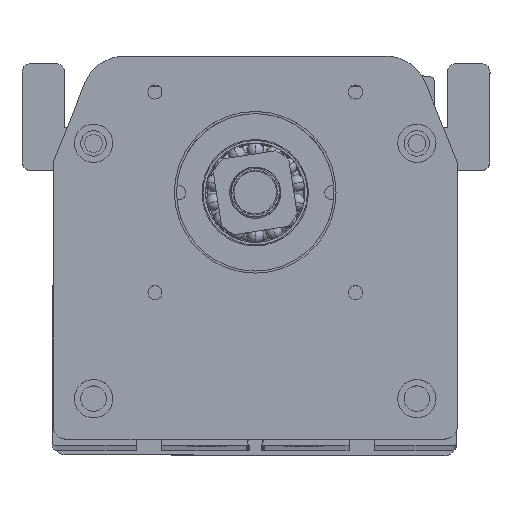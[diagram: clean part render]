
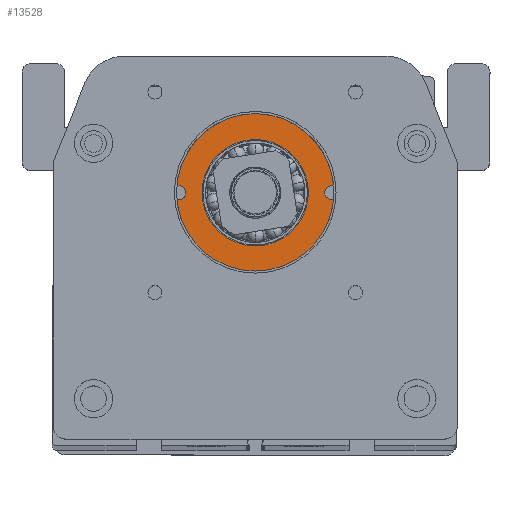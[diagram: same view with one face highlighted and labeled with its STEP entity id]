
A CAD part, top view. The second image highlights one B-rep face of the part: STEP entity #13528.
In plain terms, the highlighted planar face has unit normal (0, 0, 1) as drawn and (0, 0, -1) by its records, which use the part's own axes.
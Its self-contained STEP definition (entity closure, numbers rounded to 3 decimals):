
#430 = CARTESIAN_POINT ( 'NONE',  ( 38.737, 121.669, 51. ) ) ;
#1065 = CARTESIAN_POINT ( 'NONE',  ( 26.737, 172.669, 51. ) ) ;
#1285 = DIRECTION ( 'NONE',  ( 0., 0., -1. ) ) ;
#2113 = AXIS2_PLACEMENT_3D ( 'NONE', #19260, #1285, #22250 ) ;
#2329 = CARTESIAN_POINT ( 'NONE',  ( 50.737, 148.669, 51. ) ) ;
#2625 = CARTESIAN_POINT ( 'NONE',  ( 20.306, 120.076, 51. ) ) ;
#3227 = ORIENTED_EDGE ( 'NONE', *, *, #37201, .F. ) ;
#3273 = CARTESIAN_POINT ( 'NONE',  ( 38.737, 121.669, 51. ) ) ;
#3364 = VERTEX_POINT ( 'NONE', #33620 ) ;
#3462 = DIRECTION ( 'NONE',  ( -1., 0., 0. ) ) ;
#3576 = DIRECTION ( 'NONE',  ( 0., 0., -1. ) ) ;
#3955 = DIRECTION ( 'NONE',  ( 1., 0., 0. ) ) ;
#4070 = CARTESIAN_POINT ( 'NONE',  ( 38.737, 121.669, 51. ) ) ;
#4357 = VECTOR ( 'NONE', #27923, 1000. ) ;
#4880 = CARTESIAN_POINT ( 'NONE',  ( 57.169, 123.262, 51. ) ) ;
#4901 = EDGE_CURVE ( 'NONE', #14583, #21971, #31210, .T. ) ;
#5091 = CARTESIAN_POINT ( 'NONE',  ( 38.737, 121.669, 51. ) ) ;
#5652 = CARTESIAN_POINT ( 'NONE',  ( 51.237, 121.669, 51. ) ) ;
#5853 = FACE_BOUND ( 'NONE', #10268, .T. ) ;
#6068 = ORIENTED_EDGE ( 'NONE', *, *, #32820, .F. ) ;
#6120 = AXIS2_PLACEMENT_3D ( 'NONE', #430, #21393, #3462 ) ;
#6161 = EDGE_CURVE ( 'NONE', #3364, #35077, #23143, .T. ) ;
#6279 = DIRECTION ( 'NONE',  ( -1., 0., 0. ) ) ;
#6342 = AXIS2_PLACEMENT_3D ( 'NONE', #30327, #12358, #33352 ) ;
#7043 = ORIENTED_EDGE ( 'NONE', *, *, #13415, .T. ) ;
#7094 = DIRECTION ( 'NONE',  ( -1., 0., 0. ) ) ;
#7140 = AXIS2_PLACEMENT_3D ( 'NONE', #5091, #26067, #8143 ) ;
#7923 = AXIS2_PLACEMENT_3D ( 'NONE', #1065, #13151, #34109 ) ;
#8143 = DIRECTION ( 'NONE',  ( -1., 0., 0. ) ) ;
#8193 = VERTEX_POINT ( 'NONE', #2625 ) ;
#9117 = VERTEX_POINT ( 'NONE', #13615 ) ;
#9718 = CIRCLE ( 'NONE', #26172, 1.65 ) ;
#10132 = PLANE ( 'NONE',  #7923 ) ;
#10268 = EDGE_LOOP ( 'NONE', ( #31346, #3227 ) ) ;
#10511 = CARTESIAN_POINT ( 'NONE',  ( 55.087, 121.669, 51. ) ) ;
#10777 = AXIS2_PLACEMENT_3D ( 'NONE', #31444, #13493, #34445 ) ;
#11172 = CIRCLE ( 'NONE', #7140, 12.5 ) ;
#11416 = DIRECTION ( 'NONE',  ( 0., 0., -1. ) ) ;
#11635 = CARTESIAN_POINT ( 'NONE',  ( 20.306, 123.262, 51. ) ) ;
#11688 = VERTEX_POINT ( 'NONE', #21262 ) ;
#11712 = EDGE_CURVE ( 'NONE', #20968, #11688, #12989, .T. ) ;
#12086 = VERTEX_POINT ( 'NONE', #4880 ) ;
#12333 = LINE ( 'NONE', #24902, #4357 ) ;
#12358 = DIRECTION ( 'NONE',  ( 0., 0., -1. ) ) ;
#12989 = CIRCLE ( 'NONE', #6342, 1.65 ) ;
#13151 = DIRECTION ( 'NONE',  ( 0., 0., -1. ) ) ;
#13415 = EDGE_CURVE ( 'NONE', #15887, #12086, #23657, .T. ) ;
#13493 = DIRECTION ( 'NONE',  ( 0., 0., -1. ) ) ;
#13528 = ADVANCED_FACE ( 'NONE', ( #36770, #5853 ), #10132, .T. ) ;
#13615 = CARTESIAN_POINT ( 'NONE',  ( 26.737, 135.749, 51. ) ) ;
#13992 = CARTESIAN_POINT ( 'NONE',  ( 50.737, 172.669, 51. ) ) ;
#14134 = CARTESIAN_POINT ( 'NONE',  ( 57.169, 120.076, 51. ) ) ;
#14224 = ORIENTED_EDGE ( 'NONE', *, *, #17768, .F. ) ;
#14583 = VERTEX_POINT ( 'NONE', #37839 ) ;
#14862 = ORIENTED_EDGE ( 'NONE', *, *, #11712, .F. ) ;
#15494 = VERTEX_POINT ( 'NONE', #14134 ) ;
#15887 = VERTEX_POINT ( 'NONE', #34248 ) ;
#16139 = LINE ( 'NONE', #13992, #23172 ) ;
#16995 = DIRECTION ( 'NONE',  ( 0., -1., 0. ) ) ;
#17768 = EDGE_CURVE ( 'NONE', #14583, #9117, #12333, .T. ) ;
#17800 = EDGE_CURVE ( 'NONE', #15494, #8193, #28281, .T. ) ;
#19260 = CARTESIAN_POINT ( 'NONE',  ( 56.737, 121.669, 51. ) ) ;
#19288 = ORIENTED_EDGE ( 'NONE', *, *, #17800, .T. ) ;
#20415 = EDGE_CURVE ( 'NONE', #11688, #8193, #9718, .T. ) ;
#20828 = AXIS2_PLACEMENT_3D ( 'NONE', #4070, #25043, #7094 ) ;
#20968 = VERTEX_POINT ( 'NONE', #11635 ) ;
#21262 = CARTESIAN_POINT ( 'NONE',  ( 22.387, 121.669, 51. ) ) ;
#21393 = DIRECTION ( 'NONE',  ( 0., 0., -1. ) ) ;
#21509 = CARTESIAN_POINT ( 'NONE',  ( 38.737, 121.669, 51. ) ) ;
#21971 = VERTEX_POINT ( 'NONE', #2329 ) ;
#22028 = ORIENTED_EDGE ( 'NONE', *, *, #28266, .F. ) ;
#22250 = DIRECTION ( 'NONE',  ( -1., 0., 0. ) ) ;
#22570 = EDGE_CURVE ( 'NONE', #20968, #9117, #28354, .T. ) ;
#23127 = ORIENTED_EDGE ( 'NONE', *, *, #33448, .T. ) ;
#23143 = CIRCLE ( 'NONE', #35343, 12.5 ) ;
#23172 = VECTOR ( 'NONE', #16995, 1000. ) ;
#23657 = CIRCLE ( 'NONE', #28761, 18.5 ) ;
#24208 = DIRECTION ( 'NONE',  ( 0., 0., -1. ) ) ;
#24506 = DIRECTION ( 'NONE',  ( -1., 0., 0. ) ) ;
#24779 = CIRCLE ( 'NONE', #10777, 1.65 ) ;
#24902 = CARTESIAN_POINT ( 'NONE',  ( 26.737, 172.669, 51. ) ) ;
#24915 = VERTEX_POINT ( 'NONE', #10511 ) ;
#24924 = CARTESIAN_POINT ( 'NONE',  ( 0., 148.669, 51. ) ) ;
#25043 = DIRECTION ( 'NONE',  ( 0., 0., -1. ) ) ;
#26067 = DIRECTION ( 'NONE',  ( 0., 0., -1. ) ) ;
#26172 = AXIS2_PLACEMENT_3D ( 'NONE', #29386, #11416, #32408 ) ;
#27185 = ORIENTED_EDGE ( 'NONE', *, *, #20415, .F. ) ;
#27923 = DIRECTION ( 'NONE',  ( 0., -1., 0. ) ) ;
#28266 = EDGE_CURVE ( 'NONE', #24915, #12086, #24779, .T. ) ;
#28281 = CIRCLE ( 'NONE', #20828, 18.5 ) ;
#28354 = CIRCLE ( 'NONE', #6120, 18.5 ) ;
#28761 = AXIS2_PLACEMENT_3D ( 'NONE', #21509, #3576, #24506 ) ;
#29343 = VECTOR ( 'NONE', #3955, 1000. ) ;
#29386 = CARTESIAN_POINT ( 'NONE',  ( 20.737, 121.669, 51. ) ) ;
#30327 = CARTESIAN_POINT ( 'NONE',  ( 20.737, 121.669, 51. ) ) ;
#31210 = LINE ( 'NONE', #24924, #29343 ) ;
#31346 = ORIENTED_EDGE ( 'NONE', *, *, #6161, .F. ) ;
#31444 = CARTESIAN_POINT ( 'NONE',  ( 56.737, 121.669, 51. ) ) ;
#32408 = DIRECTION ( 'NONE',  ( -1., 0., 0. ) ) ;
#32820 = EDGE_CURVE ( 'NONE', #15494, #24915, #37675, .T. ) ;
#33352 = DIRECTION ( 'NONE',  ( -1., 0., 0. ) ) ;
#33448 = EDGE_CURVE ( 'NONE', #21971, #15887, #16139, .T. ) ;
#33620 = CARTESIAN_POINT ( 'NONE',  ( 26.237, 121.669, 51. ) ) ;
#34109 = DIRECTION ( 'NONE',  ( -1., 0., 0. ) ) ;
#34248 = CARTESIAN_POINT ( 'NONE',  ( 50.737, 135.749, 51. ) ) ;
#34445 = DIRECTION ( 'NONE',  ( -1., 0., 0. ) ) ;
#35028 = ORIENTED_EDGE ( 'NONE', *, *, #22570, .T. ) ;
#35077 = VERTEX_POINT ( 'NONE', #5652 ) ;
#35343 = AXIS2_PLACEMENT_3D ( 'NONE', #3273, #24208, #6279 ) ;
#36770 = FACE_OUTER_BOUND ( 'NONE', #37569, .T. ) ;
#37063 = ORIENTED_EDGE ( 'NONE', *, *, #4901, .T. ) ;
#37201 = EDGE_CURVE ( 'NONE', #35077, #3364, #11172, .T. ) ;
#37569 = EDGE_LOOP ( 'NONE', ( #35028, #14224, #37063, #23127, #7043, #22028, #6068, #19288, #27185, #14862 ) ) ;
#37675 = CIRCLE ( 'NONE', #2113, 1.65 ) ;
#37839 = CARTESIAN_POINT ( 'NONE',  ( 26.737, 148.669, 51. ) ) ;
